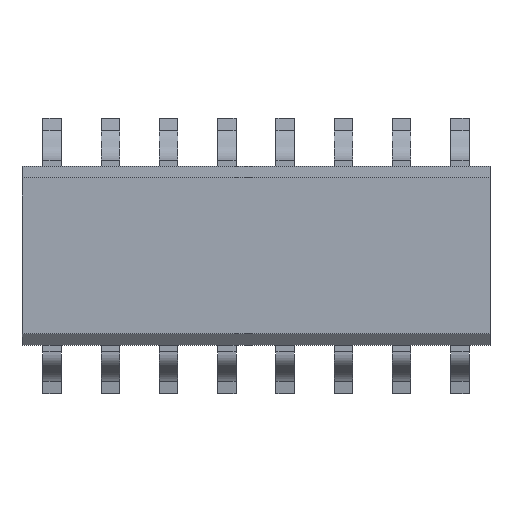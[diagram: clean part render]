
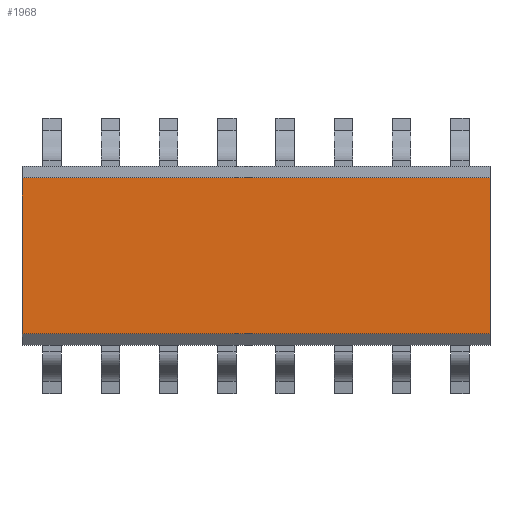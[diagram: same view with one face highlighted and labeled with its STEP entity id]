
A CAD part, top view. The second image highlights one B-rep face of the part: STEP entity #1968.
In plain terms, the highlighted planar face has unit normal (0, 0, 1).
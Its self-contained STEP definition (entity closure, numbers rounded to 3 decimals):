
#115 = CARTESIAN_POINT ( 'NONE',  ( -5.1, 1.95, 1.5 ) ) ;
#120 = DIRECTION ( 'NONE',  ( 1., 0., 0. ) ) ;
#141 = VECTOR ( 'NONE', #1376, 1000. ) ;
#163 = ORIENTED_EDGE ( 'NONE', *, *, #2064, .T. ) ;
#183 = VERTEX_POINT ( 'NONE', #770 ) ;
#245 = EDGE_CURVE ( 'NONE', #275, #4120, #3949, .T. ) ;
#275 = VERTEX_POINT ( 'NONE', #1234 ) ;
#518 = DIRECTION ( 'NONE',  ( 1., 0., 0. ) ) ;
#770 = CARTESIAN_POINT ( 'NONE',  ( -5.1, -1.7, 1.5 ) ) ;
#849 = PLANE ( 'NONE',  #1899 ) ;
#905 = ORIENTED_EDGE ( 'NONE', *, *, #245, .T. ) ;
#910 = CARTESIAN_POINT ( 'NONE',  ( -5.1, 1.7, 1.5 ) ) ;
#921 = VECTOR ( 'NONE', #3911, 1000. ) ;
#979 = LINE ( 'NONE', #910, #141 ) ;
#1234 = CARTESIAN_POINT ( 'NONE',  ( 5.1, -1.7, 1.5 ) ) ;
#1265 = LINE ( 'NONE', #115, #3419 ) ;
#1269 = CARTESIAN_POINT ( 'NONE',  ( 5.1, -1.7, 1.5 ) ) ;
#1376 = DIRECTION ( 'NONE',  ( -1., 0., 0. ) ) ;
#1899 = AXIS2_PLACEMENT_3D ( 'NONE', #3939, #4362, #518 ) ;
#1968 = ADVANCED_FACE ( 'NONE', ( #4268 ), #849, .T. ) ;
#2064 = EDGE_CURVE ( 'NONE', #183, #275, #3537, .T. ) ;
#2342 = EDGE_CURVE ( 'NONE', #4058, #183, #1265, .T. ) ;
#2739 = CARTESIAN_POINT ( 'NONE',  ( 5.1, 1.7, 1.5 ) ) ;
#2776 = VECTOR ( 'NONE', #120, 1000. ) ;
#2788 = DIRECTION ( 'NONE',  ( 0., -1., 0. ) ) ;
#2850 = CARTESIAN_POINT ( 'NONE',  ( 5.1, 1.95, 1.5 ) ) ;
#3151 = ORIENTED_EDGE ( 'NONE', *, *, #2342, .T. ) ;
#3419 = VECTOR ( 'NONE', #2788, 1000. ) ;
#3421 = CARTESIAN_POINT ( 'NONE',  ( -5.1, 1.7, 1.5 ) ) ;
#3537 = LINE ( 'NONE', #1269, #2776 ) ;
#3911 = DIRECTION ( 'NONE',  ( 0., 1., 0. ) ) ;
#3939 = CARTESIAN_POINT ( 'NONE',  ( 0., 0., 1.5 ) ) ;
#3949 = LINE ( 'NONE', #2850, #921 ) ;
#3957 = ORIENTED_EDGE ( 'NONE', *, *, #4296, .T. ) ;
#4058 = VERTEX_POINT ( 'NONE', #3421 ) ;
#4120 = VERTEX_POINT ( 'NONE', #2739 ) ;
#4268 = FACE_OUTER_BOUND ( 'NONE', #4397, .T. ) ;
#4296 = EDGE_CURVE ( 'NONE', #4120, #4058, #979, .T. ) ;
#4362 = DIRECTION ( 'NONE',  ( 0., 0., 1. ) ) ;
#4397 = EDGE_LOOP ( 'NONE', ( #905, #3957, #3151, #163 ) ) ;
